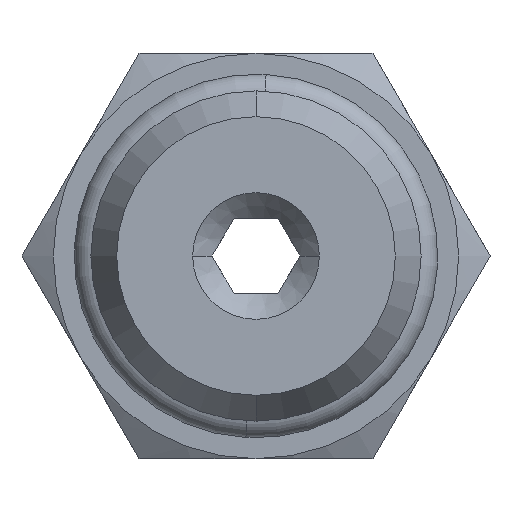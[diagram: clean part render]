
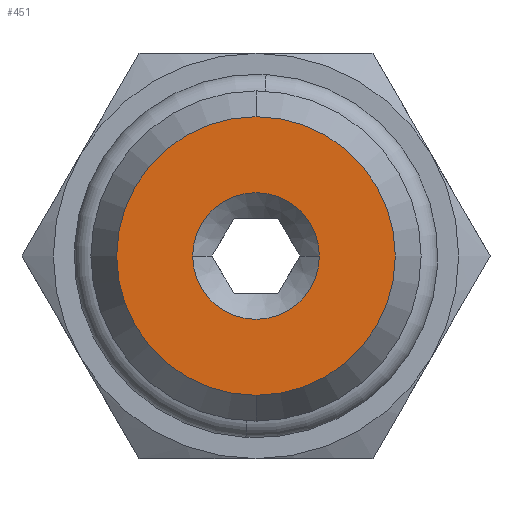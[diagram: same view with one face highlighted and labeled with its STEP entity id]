
A CAD part, front view. The second image highlights one B-rep face of the part: STEP entity #451.
In plain terms, the highlighted planar face has unit normal (0, -1, 0).
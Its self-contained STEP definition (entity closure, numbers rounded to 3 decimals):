
#171 = DIRECTION ( 'NONE',  ( 0., -1., 0. ) ) ;
#380 = ORIENTED_EDGE ( 'NONE', *, *, #3261, .T. ) ;
#449 = DIRECTION ( 'NONE',  ( 0., 0., -1. ) ) ;
#451 = ADVANCED_FACE ( 'NONE', ( #639, #1096 ), #2968, .T. ) ;
#471 = CARTESIAN_POINT ( 'NONE',  ( 0., -7.1, -5.5 ) ) ;
#622 = CIRCLE ( 'NONE', #2539, 2.5 ) ;
#624 = AXIS2_PLACEMENT_3D ( 'NONE', #921, #171, #2230 ) ;
#639 = FACE_BOUND ( 'NONE', #1356, .T. ) ;
#680 = DIRECTION ( 'NONE',  ( 0., -1., 0. ) ) ;
#739 = DIRECTION ( 'NONE',  ( 0., 0., -1. ) ) ;
#773 = CARTESIAN_POINT ( 'NONE',  ( 0., -7.1, 0. ) ) ;
#838 = CIRCLE ( 'NONE', #3379, 5.5 ) ;
#885 = CARTESIAN_POINT ( 'NONE',  ( 2.5, -7.1, 0. ) ) ;
#921 = CARTESIAN_POINT ( 'NONE',  ( 0., -7.1, 0. ) ) ;
#1052 = AXIS2_PLACEMENT_3D ( 'NONE', #773, #1513, #1804 ) ;
#1096 = FACE_OUTER_BOUND ( 'NONE', #2180, .T. ) ;
#1281 = ORIENTED_EDGE ( 'NONE', *, *, #1764, .F. ) ;
#1356 = EDGE_LOOP ( 'NONE', ( #1281, #2295 ) ) ;
#1374 = CARTESIAN_POINT ( 'NONE',  ( 0., -7.1, 5.5 ) ) ;
#1425 = ORIENTED_EDGE ( 'NONE', *, *, #2875, .T. ) ;
#1513 = DIRECTION ( 'NONE',  ( 0., -1., 0. ) ) ;
#1538 = CIRCLE ( 'NONE', #1995, 5.5 ) ;
#1764 = EDGE_CURVE ( 'NONE', #2422, #2892, #622, .T. ) ;
#1804 = DIRECTION ( 'NONE',  ( 1., 0., 0. ) ) ;
#1927 = VERTEX_POINT ( 'NONE', #1374 ) ;
#1950 = CARTESIAN_POINT ( 'NONE',  ( 0., -7.1, 0. ) ) ;
#1995 = AXIS2_PLACEMENT_3D ( 'NONE', #2810, #3350, #449 ) ;
#2164 = VERTEX_POINT ( 'NONE', #471 ) ;
#2180 = EDGE_LOOP ( 'NONE', ( #380, #1425 ) ) ;
#2230 = DIRECTION ( 'NONE',  ( 0., 0., -1. ) ) ;
#2252 = EDGE_CURVE ( 'NONE', #2892, #2422, #2549, .T. ) ;
#2295 = ORIENTED_EDGE ( 'NONE', *, *, #2252, .F. ) ;
#2422 = VERTEX_POINT ( 'NONE', #885 ) ;
#2517 = CARTESIAN_POINT ( 'NONE',  ( -2.5, -7.1, 0. ) ) ;
#2539 = AXIS2_PLACEMENT_3D ( 'NONE', #1950, #680, #3343 ) ;
#2549 = CIRCLE ( 'NONE', #1052, 2.5 ) ;
#2796 = CARTESIAN_POINT ( 'NONE',  ( 0., -7.1, 0. ) ) ;
#2810 = CARTESIAN_POINT ( 'NONE',  ( 0., -7.1, 0. ) ) ;
#2875 = EDGE_CURVE ( 'NONE', #2164, #1927, #838, .T. ) ;
#2892 = VERTEX_POINT ( 'NONE', #2517 ) ;
#2968 = PLANE ( 'NONE',  #624 ) ;
#3081 = DIRECTION ( 'NONE',  ( 0., -1., 0. ) ) ;
#3261 = EDGE_CURVE ( 'NONE', #1927, #2164, #1538, .T. ) ;
#3343 = DIRECTION ( 'NONE',  ( 1., 0., 0. ) ) ;
#3350 = DIRECTION ( 'NONE',  ( 0., -1., 0. ) ) ;
#3379 = AXIS2_PLACEMENT_3D ( 'NONE', #2796, #3081, #739 ) ;
